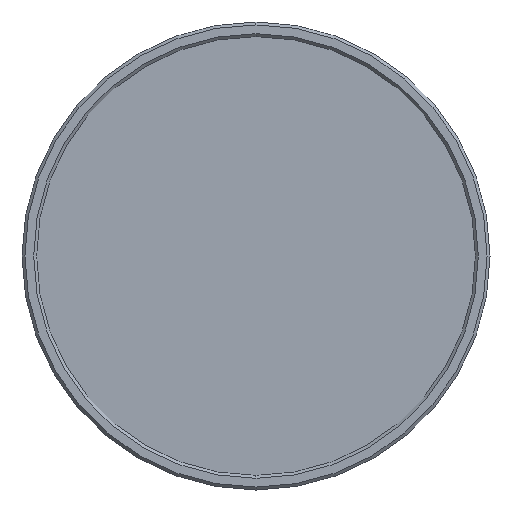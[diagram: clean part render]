
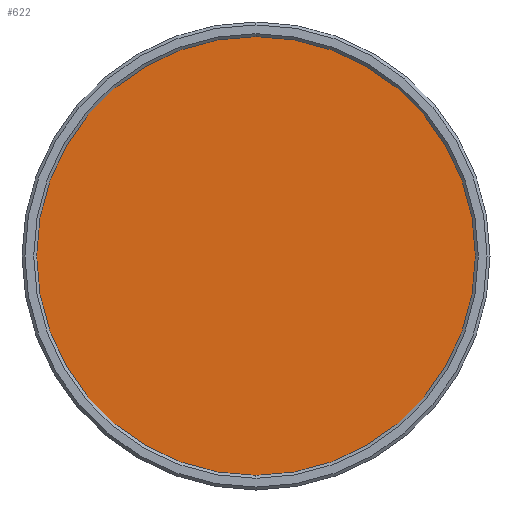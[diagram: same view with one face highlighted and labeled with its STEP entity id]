
A CAD part, left-side view. The second image highlights one B-rep face of the part: STEP entity #622.
In plain terms, the highlighted planar face has unit normal (-1, 0, 0).
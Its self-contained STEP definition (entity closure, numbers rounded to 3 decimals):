
#29 = AXIS2_PLACEMENT_3D ( 'NONE', #99, #681, #232 ) ;
#80 = CARTESIAN_POINT ( 'NONE',  ( 2.3, 0., 0. ) ) ;
#96 = ORIENTED_EDGE ( 'NONE', *, *, #486, .T. ) ;
#99 = CARTESIAN_POINT ( 'NONE',  ( 2.3, 15.25, 0. ) ) ;
#136 = DIRECTION ( 'NONE',  ( 0., -1., 0. ) ) ;
#138 = VERTEX_POINT ( 'NONE', #693 ) ;
#224 = CIRCLE ( 'NONE', #762, 15.25 ) ;
#232 = DIRECTION ( 'NONE',  ( 0., 1., 0. ) ) ;
#255 = DIRECTION ( 'NONE',  ( -1., 0., 0. ) ) ;
#274 = EDGE_CURVE ( 'NONE', #138, #451, #224, .T. ) ;
#377 = CARTESIAN_POINT ( 'NONE',  ( 2.3, -15.25, 0. ) ) ;
#451 = VERTEX_POINT ( 'NONE', #377 ) ;
#476 = CIRCLE ( 'NONE', #596, 15.25 ) ;
#486 = EDGE_CURVE ( 'NONE', #451, #138, #476, .T. ) ;
#535 = DIRECTION ( 'NONE',  ( -1., 0., 0. ) ) ;
#568 = ORIENTED_EDGE ( 'NONE', *, *, #274, .T. ) ;
#578 = EDGE_LOOP ( 'NONE', ( #96, #568 ) ) ;
#596 = AXIS2_PLACEMENT_3D ( 'NONE', #80, #535, #136 ) ;
#622 = ADVANCED_FACE ( 'NONE', ( #770 ), #751, .F. ) ;
#644 = CARTESIAN_POINT ( 'NONE',  ( 2.3, 0., 0. ) ) ;
#681 = DIRECTION ( 'NONE',  ( 1., 0., 0. ) ) ;
#693 = CARTESIAN_POINT ( 'NONE',  ( 2.3, 15.25, 0. ) ) ;
#707 = DIRECTION ( 'NONE',  ( 0., -1., 0. ) ) ;
#751 = PLANE ( 'NONE',  #29 ) ;
#762 = AXIS2_PLACEMENT_3D ( 'NONE', #644, #255, #707 ) ;
#770 = FACE_OUTER_BOUND ( 'NONE', #578, .T. ) ;
